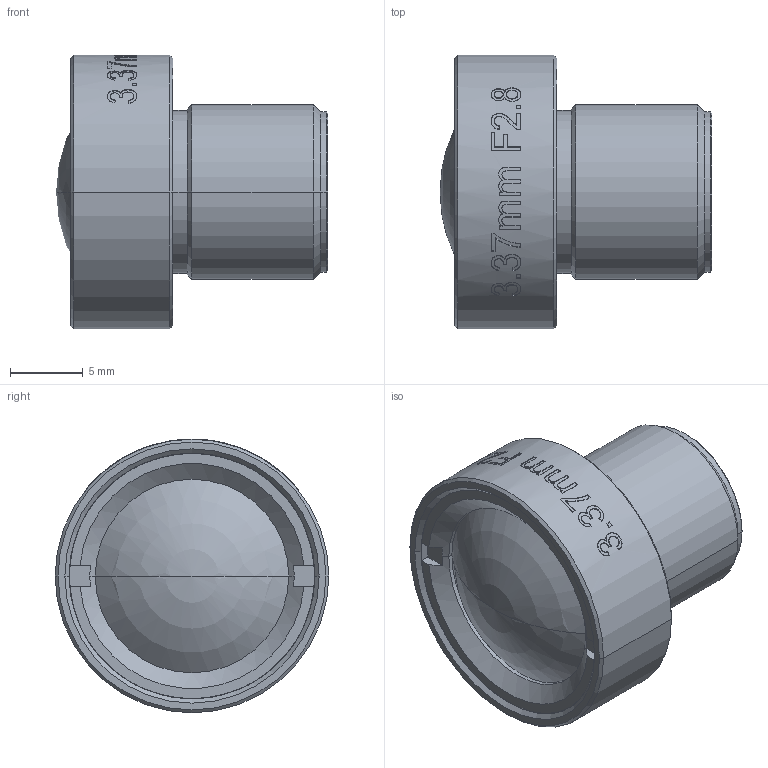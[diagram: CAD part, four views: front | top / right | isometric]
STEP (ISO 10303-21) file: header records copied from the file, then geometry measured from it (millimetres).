
FILE_DESCRIPTION((''),'2;1');
FILE_NAME('FS0305B','2024-01-31T16:47:26',('user'),(''),'CREO PARAMETRIC BY PTC INC, 2022073','CREO PARAMETRIC BY PTC INC, 2022073','');
FILE_SCHEMA(('CONFIG_CONTROL_DESIGN'));
Length unit declared in the file: millimetre
Products named in the file (1): FS0305B
Bounding box: 18.66 x 18.8 x 18.8 mm (x, y, z)
Volume: 3026.6 mm3; surface area: 1435.7 mm2
Topology: 1 solids, 1 shells, 261 faces, 704 edges, 459 vertices
Faces by surface type: bspline 152, plane 65, cylinder 24, cone 18, sphere 2
Entity records: 21558 total; most frequent: CARTESIAN_POINT 15960, ORIENTED_EDGE 1404, DIRECTION 707, EDGE_CURVE 702, VERTEX_POINT 459, B_SPLINE_CURVE_WITH_KNOTS 309, VECTOR 297, LINE 297
